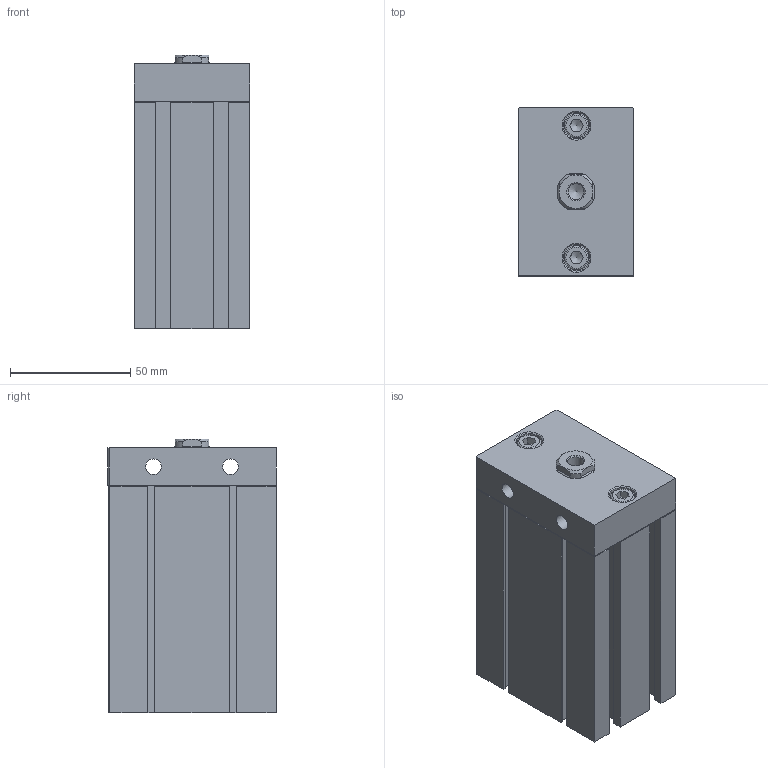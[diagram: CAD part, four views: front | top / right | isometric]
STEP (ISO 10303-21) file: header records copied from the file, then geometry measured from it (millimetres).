
FILE_DESCRIPTION((''),'2;1');
FILE_NAME('I:\3D電子目錄\氣缸\ND\ND\ND40\ND40x60.stp','2007-07-30T19:07:41',('Administrator'),(''),'Autodesk Inventor 11','Autodesk Inventor 11','');
FILE_SCHEMA(('AUTOMOTIVE_DESIGN { 1 0 10303 214 1 1 1 1 }'));
Length unit declared in the file: millimetre
Products named in the file (4): ND40; R 形環 42; ISO 4762 M6 x 20
Assembly tree (4 placements, depth 2):
  ND40
    ND40
    R 形環 42
    ISO 4762 M6 x 20  x2
Bounding box: 48 x 70.1 x 114 mm (x, y, z)
Volume: 333369.8 mm3; surface area: 53260.8 mm2
Topology: 5 solids, 5 shells, 195 faces, 467 edges, 297 vertices
Faces by surface type: plane 133, cylinder 25, cone 18, bspline 16, torus 3
Full cylindrical faces by diameter (mm): 1.9 x2, 2.2 x2, 6 x2, 6.5 x2, 10 x2, 11 x2, 29 x1, 42 x1, 44.5 x1
Entity records: 5217 total; most frequent: CARTESIAN_POINT 1095, DIRECTION 812, ORIENTED_EDGE 782, EDGE_CURVE 391, VECTOR 288, LINE 288, VERTEX_POINT 271, AXIS2_PLACEMENT_3D 262
